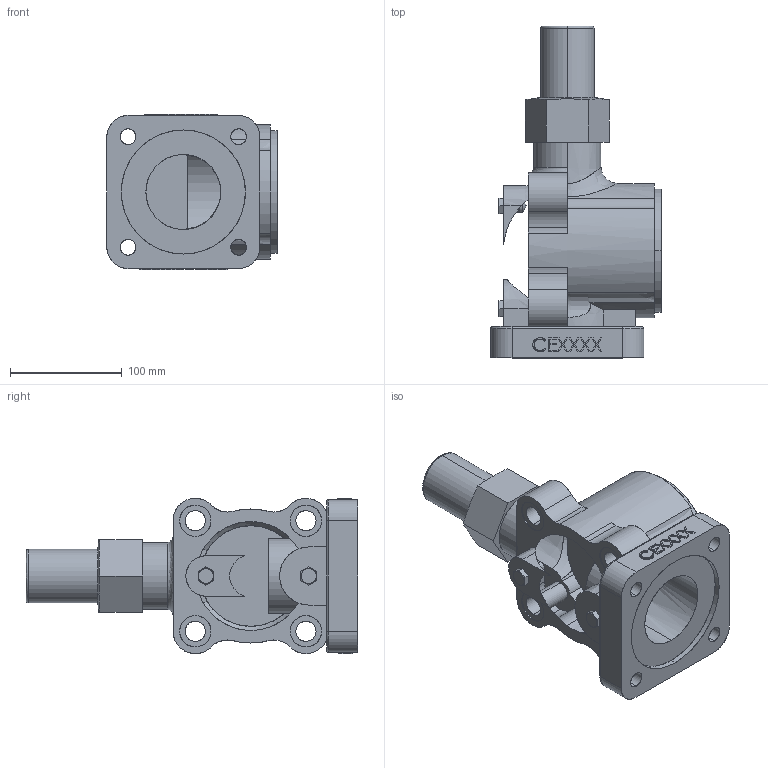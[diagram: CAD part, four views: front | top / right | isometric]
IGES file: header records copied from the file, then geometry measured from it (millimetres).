
Start section: SolidWorks IGES file using analytic representation for surfaces
Bounding box: 152.5 x 297 x 139 mm (x, y, z)
Surface area: 197203.7 mm2 (no closed solid volume)
Topology: 0 solids, 0 shells, 348 faces, 5349 edges, 5344 vertices
Faces by surface type: bspline 250, revolution 98
